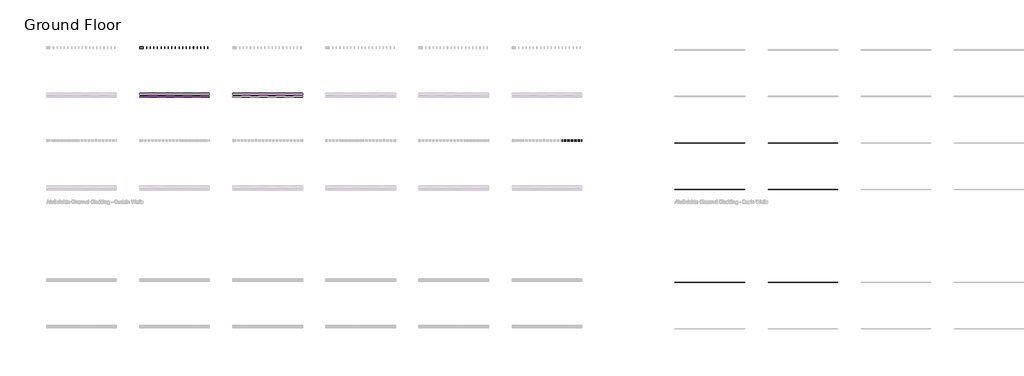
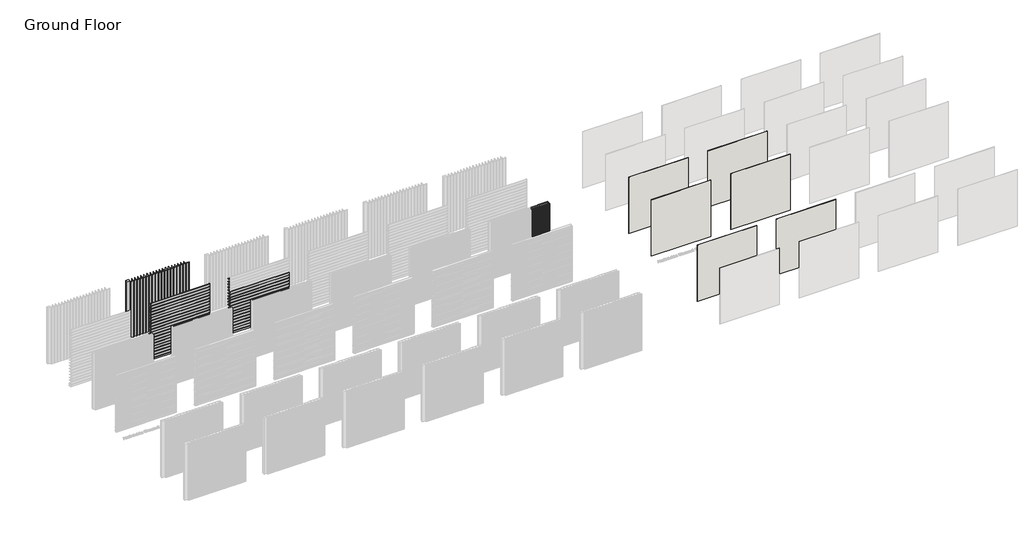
# One storey, part 37 of 350: 69 plates, 64 members, 6 walls.
"""IFC4 building model written with IfcOpenShell, lengths in millimetres."""

from ifc_helpers import new_model, si_unit, origin, origin_with_axes, place, context, project, spatial, polyline, outline, extrude, transform, mapped, element, save
from components import rectangular_mullion_894c3da7, rectangular_mullion_a9feb706, empty_system_panel_empty_02c6fd44, empty_system_panel_empty_27b459cb, empty_system_panel_empty_8dc9dcb4, empty_system_panel_empty_b4bf5bb1, empty_system_panel_empty_81d7e91e

model = new_model("IFC4")

# Units and contexts
model_context = context("Model", 3, world=origin())
ifc_project = project(units=[si_unit("LENGTHUNIT", "METRE", prefix="MILLI")], contexts=[model_context])

# Site, building, storey
site = spatial("IfcSite", under=ifc_project)
building = spatial("IfcBuilding", under=site)
storey = spatial("IfcBuildingStorey", under=building, Name="Ground Floor", Elevation=0.0)

# Members
placement = place(None, origin())
rectangular_mullion_shape = rectangular_mullion_894c3da7(model_context)
element("IfcMember", 1, ObjectType="Rectangular Mullion : Cladding_Aluminium_Modinex_AluSelekta_Channel_75_WhiteOak", at=placement, inside=storey, context=model_context, shape_type="MappedRepresentation", body=[
    mapped(rectangular_mullion_shape, transform((51016.4361642, 14968.2978302, 0.0), x_axis=(1.0, 0.0, 0.0), y_axis=(0.0, -1.0, 0.0), z_axis=(0.0, 0.0, -1.0))),
])
element("IfcMember", 2, ObjectType="Rectangular Mullion : Cladding_Aluminium_Modinex_AluSelekta_Channel_75_WhiteOak", at=placement, inside=storey, context=model_context, shape_type="MappedRepresentation", body=[
    mapped(rectangular_mullion_shape, transform((51091.4361642, 14968.2978302, 0.0), x_axis=(1.0, 0.0, 0.0), y_axis=(0.0, -1.0, 0.0), z_axis=(0.0, 0.0, -1.0))),
])
element("IfcMember", 3, ObjectType="Rectangular Mullion : Cladding_Aluminium_Modinex_AluSelekta_Channel_75_WhiteOak", at=placement, inside=storey, context=model_context, shape_type="MappedRepresentation", body=[
    mapped(rectangular_mullion_shape, transform((51166.4361642, 14968.2978302, 0.0), x_axis=(1.0, 0.0, 0.0), y_axis=(0.0, -1.0, 0.0), z_axis=(0.0, 0.0, -1.0))),
])
element("IfcMember", 4, ObjectType="Rectangular Mullion : Cladding_Aluminium_Modinex_AluSelekta_Channel_75_WhiteOak", at=placement, inside=storey, context=model_context, shape_type="MappedRepresentation", body=[
    mapped(rectangular_mullion_shape, transform((51241.4361642, 14968.2978302, 0.0), x_axis=(1.0, 0.0, 0.0), y_axis=(0.0, -1.0, 0.0), z_axis=(0.0, 0.0, -1.0))),
])
element("IfcMember", 5, ObjectType="Rectangular Mullion : Cladding_Aluminium_Modinex_AluSelekta_Channel_75_WhiteOak", at=placement, inside=storey, context=model_context, shape_type="MappedRepresentation", body=[
    mapped(rectangular_mullion_shape, transform((51316.4361642, 14968.2978302, 0.0), x_axis=(1.0, 0.0, 0.0), y_axis=(0.0, -1.0, 0.0), z_axis=(0.0, 0.0, -1.0))),
])
element("IfcMember", 6, ObjectType="Rectangular Mullion : Cladding_Aluminium_Modinex_AluSelekta_Channel_75_WhiteOak", at=placement, inside=storey, context=model_context, shape_type="MappedRepresentation", body=[
    mapped(rectangular_mullion_shape, transform((51391.4361642, 14968.2978302, 0.0), x_axis=(1.0, 0.0, 0.0), y_axis=(0.0, -1.0, 0.0), z_axis=(0.0, 0.0, -1.0))),
])
element("IfcMember", 7, ObjectType="Rectangular Mullion : Cladding_Aluminium_Modinex_AluSelekta_Channel_75_WhiteOak", at=placement, inside=storey, context=model_context, shape_type="MappedRepresentation", body=[
    mapped(rectangular_mullion_shape, transform((51466.4361642, 14968.2978302, 0.0), x_axis=(1.0, 0.0, 0.0), y_axis=(0.0, -1.0, 0.0), z_axis=(0.0, 0.0, -1.0))),
])
element("IfcMember", 8, ObjectType="Rectangular Mullion : Cladding_Aluminium_Modinex_AluSelekta_Channel_75_WhiteOak", at=placement, inside=storey, context=model_context, shape_type="MappedRepresentation", body=[
    mapped(rectangular_mullion_shape, transform((51541.4361642, 14968.2978302, 0.0), x_axis=(1.0, 0.0, 0.0), y_axis=(0.0, -1.0, 0.0), z_axis=(0.0, 0.0, -1.0))),
])
element("IfcMember", 9, ObjectType="Rectangular Mullion : Cladding_Aluminium_Modinex_AluSelekta_Channel_75_WhiteOak", at=placement, inside=storey, context=model_context, shape_type="MappedRepresentation", body=[
    mapped(rectangular_mullion_shape, transform((51616.4361642, 14968.2978302, 0.0), x_axis=(1.0, 0.0, 0.0), y_axis=(0.0, -1.0, 0.0), z_axis=(0.0, 0.0, -1.0))),
])
element("IfcMember", 10, ObjectType="Rectangular Mullion : Cladding_Aluminium_Modinex_AluSelekta_Channel_75_WhiteOak", at=placement, inside=storey, context=model_context, shape_type="MappedRepresentation", body=[
    mapped(rectangular_mullion_shape, transform((51691.4361642, 14968.2978302, 0.0), x_axis=(1.0, 0.0, 0.0), y_axis=(0.0, -1.0, 0.0), z_axis=(0.0, 0.0, -1.0))),
])
element("IfcMember", 11, ObjectType="Rectangular Mullion : Cladding_Aluminium_Modinex_AluSelekta_Channel_75_WhiteOak", at=placement, inside=storey, context=model_context, shape_type="MappedRepresentation", body=[
    mapped(rectangular_mullion_shape, transform((51766.4361642, 14968.2978302, 0.0), x_axis=(1.0, 0.0, 0.0), y_axis=(0.0, -1.0, 0.0), z_axis=(0.0, 0.0, -1.0))),
])
element("IfcMember", 12, ObjectType="Rectangular Mullion : Cladding_Aluminium_Modinex_AluSelekta_Channel_75_WhiteOak", at=placement, inside=storey, context=model_context, shape_type="MappedRepresentation", body=[
    mapped(rectangular_mullion_shape, transform((51841.4361642, 14968.2978302, 0.0), x_axis=(1.0, 0.0, 0.0), y_axis=(0.0, -1.0, 0.0), z_axis=(0.0, 0.0, -1.0))),
])
rectangular_mullion_2_shape = rectangular_mullion_a9feb706(model_context)
element("IfcMember", 13, ObjectType="Rectangular Mullion : Cladding_Aluminium_Modinex_AluSelekta_Channel_155_Cedar", at=placement, inside=storey, context=model_context, shape_type="MappedRepresentation", body=[
    mapped(rectangular_mullion_2_shape, transform((35916.4361639, 16968.2978302, 155.0), x_axis=(0.0, 0.0, 1.0), y_axis=(0.0, -1.0, 0.0), z_axis=(1.0, 0.0, 0.0))),
])
element("IfcMember", 14, ObjectType="Rectangular Mullion : Cladding_Aluminium_Modinex_AluSelekta_Channel_155_Cedar", at=placement, inside=storey, context=model_context, shape_type="MappedRepresentation", body=[
    mapped(rectangular_mullion_2_shape, transform((35916.4361639, 16968.2978302, 310.0), x_axis=(0.0, 0.0, 1.0), y_axis=(0.0, -1.0, 0.0), z_axis=(1.0, 0.0, 0.0))),
])
element("IfcMember", 15, ObjectType="Rectangular Mullion : Cladding_Aluminium_Modinex_AluSelekta_Channel_155_Cedar", at=placement, inside=storey, context=model_context, shape_type="MappedRepresentation", body=[
    mapped(rectangular_mullion_2_shape, transform((35916.4361639, 16968.2978302, 465.0), x_axis=(0.0, 0.0, 1.0), y_axis=(0.0, -1.0, 0.0), z_axis=(1.0, 0.0, 0.0))),
])
element("IfcMember", 16, ObjectType="Rectangular Mullion : Cladding_Aluminium_Modinex_AluSelekta_Channel_155_Cedar", at=placement, inside=storey, context=model_context, shape_type="MappedRepresentation", body=[
    mapped(rectangular_mullion_2_shape, transform((35916.4361639, 16968.2978302, 620.0), x_axis=(0.0, 0.0, 1.0), y_axis=(0.0, -1.0, 0.0), z_axis=(1.0, 0.0, 0.0))),
])
element("IfcMember", 17, ObjectType="Rectangular Mullion : Cladding_Aluminium_Modinex_AluSelekta_Channel_155_Cedar", at=placement, inside=storey, context=model_context, shape_type="MappedRepresentation", body=[
    mapped(rectangular_mullion_2_shape, transform((35916.4361639, 16968.2978302, 775.0), x_axis=(0.0, 0.0, 1.0), y_axis=(0.0, -1.0, 0.0), z_axis=(1.0, 0.0, 0.0))),
])
element("IfcMember", 18, ObjectType="Rectangular Mullion : Cladding_Aluminium_Modinex_AluSelekta_Channel_155_Cedar", at=placement, inside=storey, context=model_context, shape_type="MappedRepresentation", body=[
    mapped(rectangular_mullion_2_shape, transform((35916.4361639, 16968.2978302, 930.0), x_axis=(0.0, 0.0, 1.0), y_axis=(0.0, -1.0, 0.0), z_axis=(1.0, 0.0, 0.0))),
])
element("IfcMember", 19, ObjectType="Rectangular Mullion : Cladding_Aluminium_Modinex_AluSelekta_Channel_155_Cedar", at=placement, inside=storey, context=model_context, shape_type="MappedRepresentation", body=[
    mapped(rectangular_mullion_2_shape, transform((35916.4361639, 16968.2978302, 1085.0), x_axis=(0.0, 0.0, 1.0), y_axis=(0.0, -1.0, 0.0), z_axis=(1.0, 0.0, 0.0))),
])
element("IfcMember", 20, ObjectType="Rectangular Mullion : Cladding_Aluminium_Modinex_AluSelekta_Channel_155_Cedar", at=placement, inside=storey, context=model_context, shape_type="MappedRepresentation", body=[
    mapped(rectangular_mullion_2_shape, transform((35916.4361639, 16968.2978302, 1240.0), x_axis=(0.0, 0.0, 1.0), y_axis=(0.0, -1.0, 0.0), z_axis=(1.0, 0.0, 0.0))),
])
element("IfcMember", 21, ObjectType="Rectangular Mullion : Cladding_Aluminium_Modinex_AluSelekta_Channel_155_Cedar", at=placement, inside=storey, context=model_context, shape_type="MappedRepresentation", body=[
    mapped(rectangular_mullion_2_shape, transform((35916.4361639, 16968.2978302, 1395.0), x_axis=(0.0, 0.0, 1.0), y_axis=(0.0, -1.0, 0.0), z_axis=(1.0, 0.0, 0.0))),
])
element("IfcMember", 22, ObjectType="Rectangular Mullion : Cladding_Aluminium_Modinex_AluSelekta_Channel_155_Cedar", at=placement, inside=storey, context=model_context, shape_type="MappedRepresentation", body=[
    mapped(rectangular_mullion_2_shape, transform((35916.4361639, 16968.2978302, 1550.0), x_axis=(0.0, 0.0, 1.0), y_axis=(0.0, -1.0, 0.0), z_axis=(1.0, 0.0, 0.0))),
])
element("IfcMember", 23, ObjectType="Rectangular Mullion : Cladding_Aluminium_Modinex_AluSelekta_Channel_155_Cedar", at=placement, inside=storey, context=model_context, shape_type="MappedRepresentation", body=[
    mapped(rectangular_mullion_2_shape, transform((35916.4361639, 16968.2978302, 1705.0), x_axis=(0.0, 0.0, 1.0), y_axis=(0.0, -1.0, 0.0), z_axis=(1.0, 0.0, 0.0))),
])
element("IfcMember", 24, ObjectType="Rectangular Mullion : Cladding_Aluminium_Modinex_AluSelekta_Channel_155_Cedar", at=placement, inside=storey, context=model_context, shape_type="MappedRepresentation", body=[
    mapped(rectangular_mullion_2_shape, transform((35916.4361639, 16968.2978302, 1860.0), x_axis=(0.0, 0.0, 1.0), y_axis=(0.0, -1.0, 0.0), z_axis=(1.0, 0.0, 0.0))),
])
element("IfcMember", 25, ObjectType="Rectangular Mullion : Cladding_Aluminium_Modinex_AluSelekta_Channel_155_Cedar", at=placement, inside=storey, context=model_context, shape_type="MappedRepresentation", body=[
    mapped(rectangular_mullion_2_shape, transform((35916.4361639, 16968.2978302, 2015.0), x_axis=(0.0, 0.0, 1.0), y_axis=(0.0, -1.0, 0.0), z_axis=(1.0, 0.0, 0.0))),
])
element("IfcMember", 26, ObjectType="Rectangular Mullion : Cladding_Aluminium_Modinex_AluSelekta_Channel_155_Cedar", at=placement, inside=storey, context=model_context, shape_type="MappedRepresentation", body=[
    mapped(rectangular_mullion_2_shape, transform((35916.4361639, 16968.2978302, 2170.0), x_axis=(0.0, 0.0, 1.0), y_axis=(0.0, -1.0, 0.0), z_axis=(1.0, 0.0, 0.0))),
])
element("IfcMember", 27, ObjectType="Rectangular Mullion : Cladding_Aluminium_Modinex_AluSelekta_Channel_155_Cedar", at=placement, inside=storey, context=model_context, shape_type="MappedRepresentation", body=[
    mapped(rectangular_mullion_2_shape, transform((35916.4361639, 16968.2978302, 2325.0), x_axis=(0.0, 0.0, 1.0), y_axis=(0.0, -1.0, 0.0), z_axis=(1.0, 0.0, 0.0))),
])
element("IfcMember", 28, ObjectType="Rectangular Mullion : Cladding_Aluminium_Modinex_AluSelekta_Channel_155_Cedar", at=placement, inside=storey, context=model_context, shape_type="MappedRepresentation", body=[
    mapped(rectangular_mullion_2_shape, transform((35916.4361639, 16968.2978302, 2480.0), x_axis=(0.0, 0.0, 1.0), y_axis=(0.0, -1.0, 0.0), z_axis=(1.0, 0.0, 0.0))),
])
element("IfcMember", 29, ObjectType="Rectangular Mullion : Cladding_Aluminium_Modinex_AluSelekta_Channel_155_Cedar", at=placement, inside=storey, context=model_context, shape_type="MappedRepresentation", body=[
    mapped(rectangular_mullion_2_shape, transform((35916.4361639, 16968.2978302, 2635.0), x_axis=(0.0, 0.0, 1.0), y_axis=(0.0, -1.0, 0.0), z_axis=(1.0, 0.0, 0.0))),
])
element("IfcMember", 30, ObjectType="Rectangular Mullion : Cladding_Aluminium_Modinex_AluSelekta_Channel_155_Cedar", at=placement, inside=storey, context=model_context, shape_type="MappedRepresentation", body=[
    mapped(rectangular_mullion_2_shape, transform((35916.4361639, 16968.2978302, 2790.0), x_axis=(0.0, 0.0, 1.0), y_axis=(0.0, -1.0, 0.0), z_axis=(1.0, 0.0, 0.0))),
])
element("IfcMember", 31, ObjectType="Rectangular Mullion : Cladding_Aluminium_Modinex_AluSelekta_Channel_155_Cedar", at=placement, inside=storey, context=model_context, shape_type="MappedRepresentation", body=[
    mapped(rectangular_mullion_2_shape, transform((35916.4361639, 16968.2978302, 2945.0), x_axis=(0.0, 0.0, 1.0), y_axis=(0.0, -1.0, 0.0), z_axis=(1.0, 0.0, 0.0))),
])
element("IfcMember", 32, ObjectType="Rectangular Mullion : Cladding_Aluminium_Modinex_AluSelekta_Channel_155_Cedar", at=placement, inside=storey, context=model_context, shape_type="MappedRepresentation", body=[
    mapped(rectangular_mullion_2_shape, transform((33226.4361642, 18968.2978302, 0.0), x_axis=(1.0, 0.0, 0.0), y_axis=(0.0, -1.0, 0.0), z_axis=(0.0, 0.0, -1.0))),
])
element("IfcMember", 33, ObjectType="Rectangular Mullion : Cladding_Aluminium_Modinex_AluSelekta_Channel_155_Cedar", at=placement, inside=storey, context=model_context, shape_type="MappedRepresentation", body=[
    mapped(rectangular_mullion_2_shape, transform((33381.4361642, 18968.2978302, 0.0), x_axis=(1.0, 0.0, 0.0), y_axis=(0.0, -1.0, 0.0), z_axis=(0.0, 0.0, -1.0))),
])
element("IfcMember", 34, ObjectType="Rectangular Mullion : Cladding_Aluminium_Modinex_AluSelekta_Channel_155_Cedar", at=placement, inside=storey, context=model_context, shape_type="MappedRepresentation", body=[
    mapped(rectangular_mullion_2_shape, transform((33536.4361642, 18968.2978302, 0.0), x_axis=(1.0, 0.0, 0.0), y_axis=(0.0, -1.0, 0.0), z_axis=(0.0, 0.0, -1.0))),
])
element("IfcMember", 35, ObjectType="Rectangular Mullion : Cladding_Aluminium_Modinex_AluSelekta_Channel_155_Cedar", at=placement, inside=storey, context=model_context, shape_type="MappedRepresentation", body=[
    mapped(rectangular_mullion_2_shape, transform((33691.4361642, 18968.2978302, 0.0), x_axis=(1.0, 0.0, 0.0), y_axis=(0.0, -1.0, 0.0), z_axis=(0.0, 0.0, -1.0))),
])
element("IfcMember", 36, ObjectType="Rectangular Mullion : Cladding_Aluminium_Modinex_AluSelekta_Channel_155_Cedar", at=placement, inside=storey, context=model_context, shape_type="MappedRepresentation", body=[
    mapped(rectangular_mullion_2_shape, transform((33846.4361642, 18968.2978302, 0.0), x_axis=(1.0, 0.0, 0.0), y_axis=(0.0, -1.0, 0.0), z_axis=(0.0, 0.0, -1.0))),
])
element("IfcMember", 37, ObjectType="Rectangular Mullion : Cladding_Aluminium_Modinex_AluSelekta_Channel_155_Cedar", at=placement, inside=storey, context=model_context, shape_type="MappedRepresentation", body=[
    mapped(rectangular_mullion_2_shape, transform((34001.4361642, 18968.2978302, 0.0), x_axis=(1.0, 0.0, 0.0), y_axis=(0.0, -1.0, 0.0), z_axis=(0.0, 0.0, -1.0))),
])
element("IfcMember", 38, ObjectType="Rectangular Mullion : Cladding_Aluminium_Modinex_AluSelekta_Channel_155_Cedar", at=placement, inside=storey, context=model_context, shape_type="MappedRepresentation", body=[
    mapped(rectangular_mullion_2_shape, transform((34156.4361642, 18968.2978302, 0.0), x_axis=(1.0, 0.0, 0.0), y_axis=(0.0, -1.0, 0.0), z_axis=(0.0, 0.0, -1.0))),
])
element("IfcMember", 39, ObjectType="Rectangular Mullion : Cladding_Aluminium_Modinex_AluSelekta_Channel_155_Cedar", at=placement, inside=storey, context=model_context, shape_type="MappedRepresentation", body=[
    mapped(rectangular_mullion_2_shape, transform((34311.4361642, 18968.2978302, 0.0), x_axis=(1.0, 0.0, 0.0), y_axis=(0.0, -1.0, 0.0), z_axis=(0.0, 0.0, -1.0))),
])
element("IfcMember", 40, ObjectType="Rectangular Mullion : Cladding_Aluminium_Modinex_AluSelekta_Channel_155_Cedar", at=placement, inside=storey, context=model_context, shape_type="MappedRepresentation", body=[
    mapped(rectangular_mullion_2_shape, transform((34466.4361642, 18968.2978302, 0.0), x_axis=(1.0, 0.0, 0.0), y_axis=(0.0, -1.0, 0.0), z_axis=(0.0, 0.0, -1.0))),
])
element("IfcMember", 41, ObjectType="Rectangular Mullion : Cladding_Aluminium_Modinex_AluSelekta_Channel_155_Cedar", at=placement, inside=storey, context=model_context, shape_type="MappedRepresentation", body=[
    mapped(rectangular_mullion_2_shape, transform((34621.4361642, 18968.2978302, 0.0), x_axis=(1.0, 0.0, 0.0), y_axis=(0.0, -1.0, 0.0), z_axis=(0.0, 0.0, -1.0))),
])
element("IfcMember", 42, ObjectType="Rectangular Mullion : Cladding_Aluminium_Modinex_AluSelekta_Channel_155_Cedar", at=placement, inside=storey, context=model_context, shape_type="MappedRepresentation", body=[
    mapped(rectangular_mullion_2_shape, transform((34776.4361642, 18968.2978302, 0.0), x_axis=(1.0, 0.0, 0.0), y_axis=(0.0, -1.0, 0.0), z_axis=(0.0, 0.0, -1.0))),
])
element("IfcMember", 43, ObjectType="Rectangular Mullion : Cladding_Aluminium_Modinex_AluSelekta_Channel_155_Cedar", at=placement, inside=storey, context=model_context, shape_type="MappedRepresentation", body=[
    mapped(rectangular_mullion_2_shape, transform((34931.4361642, 18968.2978302, 0.0), x_axis=(1.0, 0.0, 0.0), y_axis=(0.0, -1.0, 0.0), z_axis=(0.0, 0.0, -1.0))),
])
element("IfcMember", 44, ObjectType="Rectangular Mullion : Cladding_Aluminium_Modinex_AluSelekta_Channel_155_Cedar", at=placement, inside=storey, context=model_context, shape_type="MappedRepresentation", body=[
    mapped(rectangular_mullion_2_shape, transform((35086.4361642, 18968.2978302, 0.0), x_axis=(1.0, 0.0, 0.0), y_axis=(0.0, -1.0, 0.0), z_axis=(0.0, 0.0, -1.0))),
])
element("IfcMember", 45, ObjectType="Rectangular Mullion : Cladding_Aluminium_Modinex_AluSelekta_Channel_155_Cedar", at=placement, inside=storey, context=model_context, shape_type="MappedRepresentation", body=[
    mapped(rectangular_mullion_2_shape, transform((35241.4361642, 18968.2978302, 0.0), x_axis=(1.0, 0.0, 0.0), y_axis=(0.0, -1.0, 0.0), z_axis=(0.0, 0.0, -1.0))),
])
element("IfcMember", 46, ObjectType="Rectangular Mullion : Cladding_Aluminium_Modinex_AluSelekta_Channel_155_Cedar", at=placement, inside=storey, context=model_context, shape_type="MappedRepresentation", body=[
    mapped(rectangular_mullion_2_shape, transform((35396.4361642, 18968.2978302, 0.0), x_axis=(1.0, 0.0, 0.0), y_axis=(0.0, -1.0, 0.0), z_axis=(0.0, 0.0, -1.0))),
])
element("IfcMember", 47, ObjectType="Rectangular Mullion : Cladding_Aluminium_Modinex_AluSelekta_Channel_155_Cedar", at=placement, inside=storey, context=model_context, shape_type="MappedRepresentation", body=[
    mapped(rectangular_mullion_2_shape, transform((35551.4361642, 18968.2978302, 0.0), x_axis=(1.0, 0.0, 0.0), y_axis=(0.0, -1.0, 0.0), z_axis=(0.0, 0.0, -1.0))),
])
element("IfcMember", 48, ObjectType="Rectangular Mullion : Cladding_Aluminium_Modinex_AluSelekta_Channel_155_Cedar", at=placement, inside=storey, context=model_context, shape_type="MappedRepresentation", body=[
    mapped(rectangular_mullion_2_shape, transform((35706.4361642, 18968.2978302, 0.0), x_axis=(1.0, 0.0, 0.0), y_axis=(0.0, -1.0, 0.0), z_axis=(0.0, 0.0, -1.0))),
])
element("IfcMember", 49, ObjectType="Rectangular Mullion : Cladding_Aluminium_Modinex_AluSelekta_Channel_155_Cedar", at=placement, inside=storey, context=model_context, shape_type="MappedRepresentation", body=[
    mapped(rectangular_mullion_2_shape, transform((35861.4361642, 18968.2978302, 0.0), x_axis=(1.0, 0.0, 0.0), y_axis=(0.0, -1.0, 0.0), z_axis=(0.0, 0.0, -1.0))),
])
element("IfcMember", 50, ObjectType="Rectangular Mullion : Cladding_Aluminium_Modinex_AluSelekta_Channel_155_Cedar", at=placement, inside=storey, context=model_context, shape_type="MappedRepresentation", body=[
    mapped(rectangular_mullion_2_shape, transform((33071.4361642, 18968.2978302, 0.0), x_axis=(1.0, 0.0, 0.0), y_axis=(0.0, -1.0, 0.0), z_axis=(0.0, 0.0, -1.0))),
])
element("IfcMember", 51, ObjectType="Rectangular Mullion : Cladding_Aluminium_Modinex_AluSelekta_Channel_155_EnglishOak", at=placement, inside=storey, context=model_context, shape_type="MappedRepresentation", body=[
    mapped(rectangular_mullion_2_shape, transform((39916.4361639, 16968.2978302, 155.0), x_axis=(0.0, 0.0, 1.0), y_axis=(0.0, -1.0, 0.0), z_axis=(1.0, 0.0, 0.0))),
])
element("IfcMember", 52, ObjectType="Rectangular Mullion : Cladding_Aluminium_Modinex_AluSelekta_Channel_155_EnglishOak", at=placement, inside=storey, context=model_context, shape_type="MappedRepresentation", body=[
    mapped(rectangular_mullion_2_shape, transform((39916.4361639, 16968.2978302, 310.0), x_axis=(0.0, 0.0, 1.0), y_axis=(0.0, -1.0, 0.0), z_axis=(1.0, 0.0, 0.0))),
])
element("IfcMember", 53, ObjectType="Rectangular Mullion : Cladding_Aluminium_Modinex_AluSelekta_Channel_155_EnglishOak", at=placement, inside=storey, context=model_context, shape_type="MappedRepresentation", body=[
    mapped(rectangular_mullion_2_shape, transform((39916.4361639, 16968.2978302, 465.0), x_axis=(0.0, 0.0, 1.0), y_axis=(0.0, -1.0, 0.0), z_axis=(1.0, 0.0, 0.0))),
])
element("IfcMember", 54, ObjectType="Rectangular Mullion : Cladding_Aluminium_Modinex_AluSelekta_Channel_155_EnglishOak", at=placement, inside=storey, context=model_context, shape_type="MappedRepresentation", body=[
    mapped(rectangular_mullion_2_shape, transform((39916.4361639, 16968.2978302, 620.0), x_axis=(0.0, 0.0, 1.0), y_axis=(0.0, -1.0, 0.0), z_axis=(1.0, 0.0, 0.0))),
])
element("IfcMember", 55, ObjectType="Rectangular Mullion : Cladding_Aluminium_Modinex_AluSelekta_Channel_155_EnglishOak", at=placement, inside=storey, context=model_context, shape_type="MappedRepresentation", body=[
    mapped(rectangular_mullion_2_shape, transform((39916.4361639, 16968.2978302, 775.0), x_axis=(0.0, 0.0, 1.0), y_axis=(0.0, -1.0, 0.0), z_axis=(1.0, 0.0, 0.0))),
])
element("IfcMember", 56, ObjectType="Rectangular Mullion : Cladding_Aluminium_Modinex_AluSelekta_Channel_155_EnglishOak", at=placement, inside=storey, context=model_context, shape_type="MappedRepresentation", body=[
    mapped(rectangular_mullion_2_shape, transform((39916.4361639, 16968.2978302, 930.0), x_axis=(0.0, 0.0, 1.0), y_axis=(0.0, -1.0, 0.0), z_axis=(1.0, 0.0, 0.0))),
])
element("IfcMember", 57, ObjectType="Rectangular Mullion : Cladding_Aluminium_Modinex_AluSelekta_Channel_155_EnglishOak", at=placement, inside=storey, context=model_context, shape_type="MappedRepresentation", body=[
    mapped(rectangular_mullion_2_shape, transform((39916.4361639, 16968.2978302, 1085.0), x_axis=(0.0, 0.0, 1.0), y_axis=(0.0, -1.0, 0.0), z_axis=(1.0, 0.0, 0.0))),
])
element("IfcMember", 58, ObjectType="Rectangular Mullion : Cladding_Aluminium_Modinex_AluSelekta_Channel_155_EnglishOak", at=placement, inside=storey, context=model_context, shape_type="MappedRepresentation", body=[
    mapped(rectangular_mullion_2_shape, transform((39916.4361639, 16968.2978302, 1240.0), x_axis=(0.0, 0.0, 1.0), y_axis=(0.0, -1.0, 0.0), z_axis=(1.0, 0.0, 0.0))),
])
element("IfcMember", 59, ObjectType="Rectangular Mullion : Cladding_Aluminium_Modinex_AluSelekta_Channel_155_EnglishOak", at=placement, inside=storey, context=model_context, shape_type="MappedRepresentation", body=[
    mapped(rectangular_mullion_2_shape, transform((39916.4361639, 16968.2978302, 1395.0), x_axis=(0.0, 0.0, 1.0), y_axis=(0.0, -1.0, 0.0), z_axis=(1.0, 0.0, 0.0))),
])
element("IfcMember", 60, ObjectType="Rectangular Mullion : Cladding_Aluminium_Modinex_AluSelekta_Channel_155_EnglishOak", at=placement, inside=storey, context=model_context, shape_type="MappedRepresentation", body=[
    mapped(rectangular_mullion_2_shape, transform((39916.4361639, 16968.2978302, 1550.0), x_axis=(0.0, 0.0, 1.0), y_axis=(0.0, -1.0, 0.0), z_axis=(1.0, 0.0, 0.0))),
])
element("IfcMember", 61, ObjectType="Rectangular Mullion : Cladding_Aluminium_Modinex_AluSelekta_Channel_155_EnglishOak", at=placement, inside=storey, context=model_context, shape_type="MappedRepresentation", body=[
    mapped(rectangular_mullion_2_shape, transform((39916.4361639, 16968.2978302, 1705.0), x_axis=(0.0, 0.0, 1.0), y_axis=(0.0, -1.0, 0.0), z_axis=(1.0, 0.0, 0.0))),
])
element("IfcMember", 62, ObjectType="Rectangular Mullion : Cladding_Aluminium_Modinex_AluSelekta_Channel_155_EnglishOak", at=placement, inside=storey, context=model_context, shape_type="MappedRepresentation", body=[
    mapped(rectangular_mullion_2_shape, transform((39916.4361639, 16968.2978302, 1860.0), x_axis=(0.0, 0.0, 1.0), y_axis=(0.0, -1.0, 0.0), z_axis=(1.0, 0.0, 0.0))),
])
element("IfcMember", 63, ObjectType="Rectangular Mullion : Cladding_Aluminium_Modinex_AluSelekta_Channel_155_EnglishOak", at=placement, inside=storey, context=model_context, shape_type="MappedRepresentation", body=[
    mapped(rectangular_mullion_2_shape, transform((39916.4361639, 16968.2978302, 2015.0), x_axis=(0.0, 0.0, 1.0), y_axis=(0.0, -1.0, 0.0), z_axis=(1.0, 0.0, 0.0))),
])
element("IfcMember", 64, ObjectType="Rectangular Mullion : Cladding_Aluminium_Modinex_AluSelekta_Channel_155_EnglishOak", at=placement, inside=storey, context=model_context, shape_type="MappedRepresentation", body=[
    mapped(rectangular_mullion_2_shape, transform((39916.4361639, 16968.2978302, 2170.0), x_axis=(0.0, 0.0, 1.0), y_axis=(0.0, -1.0, 0.0), z_axis=(1.0, 0.0, 0.0))),
])

# Plates
empty_system_panel_empty_shape = empty_system_panel_empty_02c6fd44(model_context)
element("IfcPlate", 65, ObjectType="Empty System Panel : Empty", at=placement, inside=storey, context=model_context, shape_type="MappedRepresentation", body=[
    mapped(empty_system_panel_empty_shape, transform((34416.4361639, 16968.2978302, 297.2580963), x_axis=(1.0, 0.0, 0.0), y_axis=(0.0, 1.0, 0.0), z_axis=(0.0, 0.0, 1.0))),
])
element("IfcPlate", 66, ObjectType="Empty System Panel : Empty", at=placement, inside=storey, context=model_context, shape_type="MappedRepresentation", body=[
    mapped(empty_system_panel_empty_shape, transform((34416.4361639, 16968.2978302, 452.2580963), x_axis=(1.0, 0.0, 0.0), y_axis=(0.0, 1.0, 0.0), z_axis=(0.0, 0.0, 1.0))),
])
element("IfcPlate", 67, ObjectType="Empty System Panel : Empty", at=placement, inside=storey, context=model_context, shape_type="MappedRepresentation", body=[
    mapped(empty_system_panel_empty_shape, transform((34416.4361639, 16968.2978302, 607.2580963), x_axis=(1.0, 0.0, 0.0), y_axis=(0.0, 1.0, 0.0), z_axis=(0.0, 0.0, 1.0))),
])
element("IfcPlate", 68, ObjectType="Empty System Panel : Empty", at=placement, inside=storey, context=model_context, shape_type="MappedRepresentation", body=[
    mapped(empty_system_panel_empty_shape, transform((34416.4361639, 16968.2978302, 762.2580963), x_axis=(1.0, 0.0, 0.0), y_axis=(0.0, 1.0, 0.0), z_axis=(0.0, 0.0, 1.0))),
])
element("IfcPlate", 69, ObjectType="Empty System Panel : Empty", at=placement, inside=storey, context=model_context, shape_type="MappedRepresentation", body=[
    mapped(empty_system_panel_empty_shape, transform((34416.4361639, 16968.2978302, 917.2580963), x_axis=(1.0, 0.0, 0.0), y_axis=(0.0, 1.0, 0.0), z_axis=(0.0, 0.0, 1.0))),
])
element("IfcPlate", 70, ObjectType="Empty System Panel : Empty", at=placement, inside=storey, context=model_context, shape_type="MappedRepresentation", body=[
    mapped(empty_system_panel_empty_shape, transform((34416.4361639, 16968.2978302, 1072.2580963), x_axis=(1.0, 0.0, 0.0), y_axis=(0.0, 1.0, 0.0), z_axis=(0.0, 0.0, 1.0))),
])
element("IfcPlate", 71, ObjectType="Empty System Panel : Empty", at=placement, inside=storey, context=model_context, shape_type="MappedRepresentation", body=[
    mapped(empty_system_panel_empty_shape, transform((34416.4361639, 16968.2978302, 1227.2580963), x_axis=(1.0, 0.0, 0.0), y_axis=(0.0, 1.0, 0.0), z_axis=(0.0, 0.0, 1.0))),
])
element("IfcPlate", 72, ObjectType="Empty System Panel : Empty", at=placement, inside=storey, context=model_context, shape_type="MappedRepresentation", body=[
    mapped(empty_system_panel_empty_shape, transform((34416.4361639, 16968.2978302, 1382.2580963), x_axis=(1.0, 0.0, 0.0), y_axis=(0.0, 1.0, 0.0), z_axis=(0.0, 0.0, 1.0))),
])
element("IfcPlate", 73, ObjectType="Empty System Panel : Empty", at=placement, inside=storey, context=model_context, shape_type="MappedRepresentation", body=[
    mapped(empty_system_panel_empty_shape, transform((34416.4361639, 16968.2978302, 1537.2580963), x_axis=(1.0, 0.0, 0.0), y_axis=(0.0, 1.0, 0.0), z_axis=(0.0, 0.0, 1.0))),
])
element("IfcPlate", 74, ObjectType="Empty System Panel : Empty", at=placement, inside=storey, context=model_context, shape_type="MappedRepresentation", body=[
    mapped(empty_system_panel_empty_shape, transform((34416.4361639, 16968.2978302, 1692.2580963), x_axis=(1.0, 0.0, 0.0), y_axis=(0.0, 1.0, 0.0), z_axis=(0.0, 0.0, 1.0))),
])
element("IfcPlate", 75, ObjectType="Empty System Panel : Empty", at=placement, inside=storey, context=model_context, shape_type="MappedRepresentation", body=[
    mapped(empty_system_panel_empty_shape, transform((34416.4361639, 16968.2978302, 1847.2580963), x_axis=(1.0, 0.0, 0.0), y_axis=(0.0, 1.0, 0.0), z_axis=(0.0, 0.0, 1.0))),
])
element("IfcPlate", 76, ObjectType="Empty System Panel : Empty", at=placement, inside=storey, context=model_context, shape_type="MappedRepresentation", body=[
    mapped(empty_system_panel_empty_shape, transform((34416.4361639, 16968.2978302, 2002.2580963), x_axis=(1.0, 0.0, 0.0), y_axis=(0.0, 1.0, 0.0), z_axis=(0.0, 0.0, 1.0))),
])
element("IfcPlate", 77, ObjectType="Empty System Panel : Empty", at=placement, inside=storey, context=model_context, shape_type="MappedRepresentation", body=[
    mapped(empty_system_panel_empty_shape, transform((34416.4361639, 16968.2978302, 2157.2580963), x_axis=(1.0, 0.0, 0.0), y_axis=(0.0, 1.0, 0.0), z_axis=(0.0, 0.0, 1.0))),
])
element("IfcPlate", 78, ObjectType="Empty System Panel : Empty", at=placement, inside=storey, context=model_context, shape_type="MappedRepresentation", body=[
    mapped(empty_system_panel_empty_shape, transform((34416.4361639, 16968.2978302, 2312.2580963), x_axis=(1.0, 0.0, 0.0), y_axis=(0.0, 1.0, 0.0), z_axis=(0.0, 0.0, 1.0))),
])
element("IfcPlate", 79, ObjectType="Empty System Panel : Empty", at=placement, inside=storey, context=model_context, shape_type="MappedRepresentation", body=[
    mapped(empty_system_panel_empty_shape, transform((34416.4361639, 16968.2978302, 2467.2580963), x_axis=(1.0, 0.0, 0.0), y_axis=(0.0, 1.0, 0.0), z_axis=(0.0, 0.0, 1.0))),
])
element("IfcPlate", 80, ObjectType="Empty System Panel : Empty", at=placement, inside=storey, context=model_context, shape_type="MappedRepresentation", body=[
    mapped(empty_system_panel_empty_shape, transform((34416.4361639, 16968.2978302, 2622.2580963), x_axis=(1.0, 0.0, 0.0), y_axis=(0.0, 1.0, 0.0), z_axis=(0.0, 0.0, 1.0))),
])
element("IfcPlate", 81, ObjectType="Empty System Panel : Empty", at=placement, inside=storey, context=model_context, shape_type="MappedRepresentation", body=[
    mapped(empty_system_panel_empty_shape, transform((34416.4361639, 16968.2978302, 2777.2580963), x_axis=(1.0, 0.0, 0.0), y_axis=(0.0, 1.0, 0.0), z_axis=(0.0, 0.0, 1.0))),
])
element("IfcPlate", 82, ObjectType="Empty System Panel : Empty", at=placement, inside=storey, context=model_context, shape_type="MappedRepresentation", body=[
    mapped(empty_system_panel_empty_shape, transform((34416.4361639, 16968.2978302, 2932.2580963), x_axis=(1.0, 0.0, 0.0), y_axis=(0.0, 1.0, 0.0), z_axis=(0.0, 0.0, 1.0))),
])
element("IfcPlate", 83, ObjectType="Empty System Panel : Empty", at=placement, inside=storey, context=model_context, shape_type="MappedRepresentation", body=[
    mapped(empty_system_panel_empty_shape, transform((38416.4361639, 16968.2978302, 297.2580963), x_axis=(1.0, 0.0, 0.0), y_axis=(0.0, 1.0, 0.0), z_axis=(0.0, 0.0, 1.0))),
])
element("IfcPlate", 84, ObjectType="Empty System Panel : Empty", at=placement, inside=storey, context=model_context, shape_type="MappedRepresentation", body=[
    mapped(empty_system_panel_empty_shape, transform((38416.4361639, 16968.2978302, 452.2580963), x_axis=(1.0, 0.0, 0.0), y_axis=(0.0, 1.0, 0.0), z_axis=(0.0, 0.0, 1.0))),
])
element("IfcPlate", 85, ObjectType="Empty System Panel : Empty", at=placement, inside=storey, context=model_context, shape_type="MappedRepresentation", body=[
    mapped(empty_system_panel_empty_shape, transform((38416.4361639, 16968.2978302, 607.2580963), x_axis=(1.0, 0.0, 0.0), y_axis=(0.0, 1.0, 0.0), z_axis=(0.0, 0.0, 1.0))),
])
element("IfcPlate", 86, ObjectType="Empty System Panel : Empty", at=placement, inside=storey, context=model_context, shape_type="MappedRepresentation", body=[
    mapped(empty_system_panel_empty_shape, transform((38416.4361639, 16968.2978302, 762.2580963), x_axis=(1.0, 0.0, 0.0), y_axis=(0.0, 1.0, 0.0), z_axis=(0.0, 0.0, 1.0))),
])
element("IfcPlate", 87, ObjectType="Empty System Panel : Empty", at=placement, inside=storey, context=model_context, shape_type="MappedRepresentation", body=[
    mapped(empty_system_panel_empty_shape, transform((38416.4361639, 16968.2978302, 917.2580963), x_axis=(1.0, 0.0, 0.0), y_axis=(0.0, 1.0, 0.0), z_axis=(0.0, 0.0, 1.0))),
])
element("IfcPlate", 88, ObjectType="Empty System Panel : Empty", at=placement, inside=storey, context=model_context, shape_type="MappedRepresentation", body=[
    mapped(empty_system_panel_empty_shape, transform((38416.4361639, 16968.2978302, 1072.2580963), x_axis=(1.0, 0.0, 0.0), y_axis=(0.0, 1.0, 0.0), z_axis=(0.0, 0.0, 1.0))),
])
element("IfcPlate", 89, ObjectType="Empty System Panel : Empty", at=placement, inside=storey, context=model_context, shape_type="MappedRepresentation", body=[
    mapped(empty_system_panel_empty_shape, transform((38416.4361639, 16968.2978302, 1227.2580963), x_axis=(1.0, 0.0, 0.0), y_axis=(0.0, 1.0, 0.0), z_axis=(0.0, 0.0, 1.0))),
])
element("IfcPlate", 90, ObjectType="Empty System Panel : Empty", at=placement, inside=storey, context=model_context, shape_type="MappedRepresentation", body=[
    mapped(empty_system_panel_empty_shape, transform((38416.4361639, 16968.2978302, 1382.2580963), x_axis=(1.0, 0.0, 0.0), y_axis=(0.0, 1.0, 0.0), z_axis=(0.0, 0.0, 1.0))),
])
element("IfcPlate", 91, ObjectType="Empty System Panel : Empty", at=placement, inside=storey, context=model_context, shape_type="MappedRepresentation", body=[
    mapped(empty_system_panel_empty_shape, transform((38416.4361639, 16968.2978302, 1537.2580963), x_axis=(1.0, 0.0, 0.0), y_axis=(0.0, 1.0, 0.0), z_axis=(0.0, 0.0, 1.0))),
])
element("IfcPlate", 92, ObjectType="Empty System Panel : Empty", at=placement, inside=storey, context=model_context, shape_type="MappedRepresentation", body=[
    mapped(empty_system_panel_empty_shape, transform((38416.4361639, 16968.2978302, 1692.2580963), x_axis=(1.0, 0.0, 0.0), y_axis=(0.0, 1.0, 0.0), z_axis=(0.0, 0.0, 1.0))),
])
element("IfcPlate", 93, ObjectType="Empty System Panel : Empty", at=placement, inside=storey, context=model_context, shape_type="MappedRepresentation", body=[
    mapped(empty_system_panel_empty_shape, transform((38416.4361639, 16968.2978302, 1847.2580963), x_axis=(1.0, 0.0, 0.0), y_axis=(0.0, 1.0, 0.0), z_axis=(0.0, 0.0, 1.0))),
])
element("IfcPlate", 94, ObjectType="Empty System Panel : Empty", at=placement, inside=storey, context=model_context, shape_type="MappedRepresentation", body=[
    mapped(empty_system_panel_empty_shape, transform((38416.4361639, 16968.2978302, 2002.2580963), x_axis=(1.0, 0.0, 0.0), y_axis=(0.0, 1.0, 0.0), z_axis=(0.0, 0.0, 1.0))),
])
element("IfcPlate", 95, ObjectType="Empty System Panel : Empty", at=placement, inside=storey, context=model_context, shape_type="MappedRepresentation", body=[
    mapped(empty_system_panel_empty_shape, transform((38416.4361639, 16968.2978302, 2157.2580963), x_axis=(1.0, 0.0, 0.0), y_axis=(0.0, 1.0, 0.0), z_axis=(0.0, 0.0, 1.0))),
])
element("IfcPlate", 96, ObjectType="Empty System Panel : Empty", at=placement, inside=storey, context=model_context, shape_type="MappedRepresentation", body=[
    mapped(empty_system_panel_empty_shape, transform((38416.4361639, 16968.2978302, 2312.2580963), x_axis=(1.0, 0.0, 0.0), y_axis=(0.0, 1.0, 0.0), z_axis=(0.0, 0.0, 1.0))),
])
element("IfcPlate", 97, ObjectType="Empty System Panel : Empty", at=placement, inside=storey, context=model_context, shape_type="MappedRepresentation", body=[
    mapped(empty_system_panel_empty_shape, transform((38416.4361639, 16968.2978302, 2467.2580963), x_axis=(1.0, 0.0, 0.0), y_axis=(0.0, 1.0, 0.0), z_axis=(0.0, 0.0, 1.0))),
])
element("IfcPlate", 98, ObjectType="Empty System Panel : Empty", at=placement, inside=storey, context=model_context, shape_type="MappedRepresentation", body=[
    mapped(empty_system_panel_empty_shape, transform((38416.4361639, 16968.2978302, 2622.2580963), x_axis=(1.0, 0.0, 0.0), y_axis=(0.0, 1.0, 0.0), z_axis=(0.0, 0.0, 1.0))),
])
element("IfcPlate", 99, ObjectType="Empty System Panel : Empty", at=placement, inside=storey, context=model_context, shape_type="MappedRepresentation", body=[
    mapped(empty_system_panel_empty_shape, transform((38416.4361639, 16968.2978302, 2777.2580963), x_axis=(1.0, 0.0, 0.0), y_axis=(0.0, 1.0, 0.0), z_axis=(0.0, 0.0, 1.0))),
])
element("IfcPlate", 100, ObjectType="Empty System Panel : Empty", at=placement, inside=storey, context=model_context, shape_type="MappedRepresentation", body=[
    mapped(empty_system_panel_empty_shape, transform((38416.4361639, 16968.2978302, 2932.2580963), x_axis=(1.0, 0.0, 0.0), y_axis=(0.0, 1.0, 0.0), z_axis=(0.0, 0.0, 1.0))),
])
empty_system_panel_empty_2_shape = empty_system_panel_empty_27b459cb(model_context)
element("IfcPlate", 101, ObjectType="Empty System Panel : Empty", at=placement, inside=storey, context=model_context, shape_type="MappedRepresentation", body=[
    mapped(empty_system_panel_empty_2_shape, transform((51079.9529326, 14968.2978302, 0.0), x_axis=(1.0, 0.0, 0.0), y_axis=(0.0, 1.0, 0.0), z_axis=(0.0, 0.0, 1.0))),
])
element("IfcPlate", 102, ObjectType="Empty System Panel : Empty", at=placement, inside=storey, context=model_context, shape_type="MappedRepresentation", body=[
    mapped(empty_system_panel_empty_2_shape, transform((51154.9529326, 14968.2978302, 0.0), x_axis=(1.0, 0.0, 0.0), y_axis=(0.0, 1.0, 0.0), z_axis=(0.0, 0.0, 1.0))),
])
element("IfcPlate", 103, ObjectType="Empty System Panel : Empty", at=placement, inside=storey, context=model_context, shape_type="MappedRepresentation", body=[
    mapped(empty_system_panel_empty_2_shape, transform((51229.9529326, 14968.2978302, 0.0), x_axis=(1.0, 0.0, 0.0), y_axis=(0.0, 1.0, 0.0), z_axis=(0.0, 0.0, 1.0))),
])
element("IfcPlate", 104, ObjectType="Empty System Panel : Empty", at=placement, inside=storey, context=model_context, shape_type="MappedRepresentation", body=[
    mapped(empty_system_panel_empty_2_shape, transform((51304.9529326, 14968.2978302, 0.0), x_axis=(1.0, 0.0, 0.0), y_axis=(0.0, 1.0, 0.0), z_axis=(0.0, 0.0, 1.0))),
])
element("IfcPlate", 105, ObjectType="Empty System Panel : Empty", at=placement, inside=storey, context=model_context, shape_type="MappedRepresentation", body=[
    mapped(empty_system_panel_empty_2_shape, transform((51379.9529326, 14968.2978302, 0.0), x_axis=(1.0, 0.0, 0.0), y_axis=(0.0, 1.0, 0.0), z_axis=(0.0, 0.0, 1.0))),
])
element("IfcPlate", 106, ObjectType="Empty System Panel : Empty", at=placement, inside=storey, context=model_context, shape_type="MappedRepresentation", body=[
    mapped(empty_system_panel_empty_2_shape, transform((51454.9529326, 14968.2978302, 0.0), x_axis=(1.0, 0.0, 0.0), y_axis=(0.0, 1.0, 0.0), z_axis=(0.0, 0.0, 1.0))),
])
element("IfcPlate", 107, ObjectType="Empty System Panel : Empty", at=placement, inside=storey, context=model_context, shape_type="MappedRepresentation", body=[
    mapped(empty_system_panel_empty_2_shape, transform((51529.9529326, 14968.2978302, 0.0), x_axis=(1.0, 0.0, 0.0), y_axis=(0.0, 1.0, 0.0), z_axis=(0.0, 0.0, 1.0))),
])
element("IfcPlate", 108, ObjectType="Empty System Panel : Empty", at=placement, inside=storey, context=model_context, shape_type="MappedRepresentation", body=[
    mapped(empty_system_panel_empty_2_shape, transform((51604.9529326, 14968.2978302, 0.0), x_axis=(1.0, 0.0, 0.0), y_axis=(0.0, 1.0, 0.0), z_axis=(0.0, 0.0, 1.0))),
])
element("IfcPlate", 109, ObjectType="Empty System Panel : Empty", at=placement, inside=storey, context=model_context, shape_type="MappedRepresentation", body=[
    mapped(empty_system_panel_empty_2_shape, transform((51679.9529326, 14968.2978302, 0.0), x_axis=(1.0, 0.0, 0.0), y_axis=(0.0, 1.0, 0.0), z_axis=(0.0, 0.0, 1.0))),
])
element("IfcPlate", 110, ObjectType="Empty System Panel : Empty", at=placement, inside=storey, context=model_context, shape_type="MappedRepresentation", body=[
    mapped(empty_system_panel_empty_2_shape, transform((51754.9529326, 14968.2978302, 0.0), x_axis=(1.0, 0.0, 0.0), y_axis=(0.0, 1.0, 0.0), z_axis=(0.0, 0.0, 1.0))),
])
element("IfcPlate", 111, ObjectType="Empty System Panel : Empty", at=placement, inside=storey, context=model_context, shape_type="MappedRepresentation", body=[
    mapped(empty_system_panel_empty_2_shape, transform((51829.9529326, 14968.2978302, 0.0), x_axis=(1.0, 0.0, 0.0), y_axis=(0.0, 1.0, 0.0), z_axis=(0.0, 0.0, 1.0))),
])
element("IfcPlate", 112, ObjectType="Empty System Panel : Empty", at=placement, inside=storey, context=model_context, shape_type="MappedRepresentation", body=[
    mapped(empty_system_panel_empty_2_shape, transform((33369.9529326, 18968.2978302, 0.0), x_axis=(1.0, 0.0, 0.0), y_axis=(0.0, 1.0, 0.0), z_axis=(0.0, 0.0, 1.0))),
])
element("IfcPlate", 113, ObjectType="Empty System Panel : Empty", at=placement, inside=storey, context=model_context, shape_type="MappedRepresentation", body=[
    mapped(empty_system_panel_empty_2_shape, transform((33524.9529326, 18968.2978302, 0.0), x_axis=(1.0, 0.0, 0.0), y_axis=(0.0, 1.0, 0.0), z_axis=(0.0, 0.0, 1.0))),
])
element("IfcPlate", 114, ObjectType="Empty System Panel : Empty", at=placement, inside=storey, context=model_context, shape_type="MappedRepresentation", body=[
    mapped(empty_system_panel_empty_2_shape, transform((33679.9529326, 18968.2978302, 0.0), x_axis=(1.0, 0.0, 0.0), y_axis=(0.0, 1.0, 0.0), z_axis=(0.0, 0.0, 1.0))),
])
element("IfcPlate", 115, ObjectType="Empty System Panel : Empty", at=placement, inside=storey, context=model_context, shape_type="MappedRepresentation", body=[
    mapped(empty_system_panel_empty_2_shape, transform((33834.9529326, 18968.2978302, 0.0), x_axis=(1.0, 0.0, 0.0), y_axis=(0.0, 1.0, 0.0), z_axis=(0.0, 0.0, 1.0))),
])
element("IfcPlate", 116, ObjectType="Empty System Panel : Empty", at=placement, inside=storey, context=model_context, shape_type="MappedRepresentation", body=[
    mapped(empty_system_panel_empty_2_shape, transform((33989.9529326, 18968.2978302, 0.0), x_axis=(1.0, 0.0, 0.0), y_axis=(0.0, 1.0, 0.0), z_axis=(0.0, 0.0, 1.0))),
])
element("IfcPlate", 117, ObjectType="Empty System Panel : Empty", at=placement, inside=storey, context=model_context, shape_type="MappedRepresentation", body=[
    mapped(empty_system_panel_empty_2_shape, transform((34144.9529326, 18968.2978302, 0.0), x_axis=(1.0, 0.0, 0.0), y_axis=(0.0, 1.0, 0.0), z_axis=(0.0, 0.0, 1.0))),
])
element("IfcPlate", 118, ObjectType="Empty System Panel : Empty", at=placement, inside=storey, context=model_context, shape_type="MappedRepresentation", body=[
    mapped(empty_system_panel_empty_2_shape, transform((34299.9529326, 18968.2978302, 0.0), x_axis=(1.0, 0.0, 0.0), y_axis=(0.0, 1.0, 0.0), z_axis=(0.0, 0.0, 1.0))),
])
element("IfcPlate", 119, ObjectType="Empty System Panel : Empty", at=placement, inside=storey, context=model_context, shape_type="MappedRepresentation", body=[
    mapped(empty_system_panel_empty_2_shape, transform((34454.9529326, 18968.2978302, 0.0), x_axis=(1.0, 0.0, 0.0), y_axis=(0.0, 1.0, 0.0), z_axis=(0.0, 0.0, 1.0))),
])
element("IfcPlate", 120, ObjectType="Empty System Panel : Empty", at=placement, inside=storey, context=model_context, shape_type="MappedRepresentation", body=[
    mapped(empty_system_panel_empty_2_shape, transform((34609.9529326, 18968.2978302, 0.0), x_axis=(1.0, 0.0, 0.0), y_axis=(0.0, 1.0, 0.0), z_axis=(0.0, 0.0, 1.0))),
])
element("IfcPlate", 121, ObjectType="Empty System Panel : Empty", at=placement, inside=storey, context=model_context, shape_type="MappedRepresentation", body=[
    mapped(empty_system_panel_empty_2_shape, transform((34764.9529326, 18968.2978302, 0.0), x_axis=(1.0, 0.0, 0.0), y_axis=(0.0, 1.0, 0.0), z_axis=(0.0, 0.0, 1.0))),
])
element("IfcPlate", 122, ObjectType="Empty System Panel : Empty", at=placement, inside=storey, context=model_context, shape_type="MappedRepresentation", body=[
    mapped(empty_system_panel_empty_2_shape, transform((34919.9529326, 18968.2978302, 0.0), x_axis=(1.0, 0.0, 0.0), y_axis=(0.0, 1.0, 0.0), z_axis=(0.0, 0.0, 1.0))),
])
element("IfcPlate", 123, ObjectType="Empty System Panel : Empty", at=placement, inside=storey, context=model_context, shape_type="MappedRepresentation", body=[
    mapped(empty_system_panel_empty_2_shape, transform((35074.9529326, 18968.2978302, 0.0), x_axis=(1.0, 0.0, 0.0), y_axis=(0.0, 1.0, 0.0), z_axis=(0.0, 0.0, 1.0))),
])
element("IfcPlate", 124, ObjectType="Empty System Panel : Empty", at=placement, inside=storey, context=model_context, shape_type="MappedRepresentation", body=[
    mapped(empty_system_panel_empty_2_shape, transform((35229.9529326, 18968.2978302, 0.0), x_axis=(1.0, 0.0, 0.0), y_axis=(0.0, 1.0, 0.0), z_axis=(0.0, 0.0, 1.0))),
])
element("IfcPlate", 125, ObjectType="Empty System Panel : Empty", at=placement, inside=storey, context=model_context, shape_type="MappedRepresentation", body=[
    mapped(empty_system_panel_empty_2_shape, transform((35384.9529326, 18968.2978302, 0.0), x_axis=(1.0, 0.0, 0.0), y_axis=(0.0, 1.0, 0.0), z_axis=(0.0, 0.0, 1.0))),
])
element("IfcPlate", 126, ObjectType="Empty System Panel : Empty", at=placement, inside=storey, context=model_context, shape_type="MappedRepresentation", body=[
    mapped(empty_system_panel_empty_2_shape, transform((35539.9529326, 18968.2978302, 0.0), x_axis=(1.0, 0.0, 0.0), y_axis=(0.0, 1.0, 0.0), z_axis=(0.0, 0.0, 1.0))),
])
element("IfcPlate", 127, ObjectType="Empty System Panel : Empty", at=placement, inside=storey, context=model_context, shape_type="MappedRepresentation", body=[
    mapped(empty_system_panel_empty_2_shape, transform((35694.9529326, 18968.2978302, 0.0), x_axis=(1.0, 0.0, 0.0), y_axis=(0.0, 1.0, 0.0), z_axis=(0.0, 0.0, 1.0))),
])
element("IfcPlate", 128, ObjectType="Empty System Panel : Empty", at=placement, inside=storey, context=model_context, shape_type="MappedRepresentation", body=[
    mapped(empty_system_panel_empty_2_shape, transform((35849.9529326, 18968.2978302, 0.0), x_axis=(1.0, 0.0, 0.0), y_axis=(0.0, 1.0, 0.0), z_axis=(0.0, 0.0, 1.0))),
])
element("IfcPlate", 129, ObjectType="Empty System Panel : Empty", at=placement, inside=storey, context=model_context, shape_type="MappedRepresentation", body=[
    mapped(empty_system_panel_empty_2_shape, transform((33214.9529326, 18968.2978302, 0.0), x_axis=(1.0, 0.0, 0.0), y_axis=(0.0, 1.0, 0.0), z_axis=(0.0, 0.0, 1.0))),
])
empty_system_panel_empty_3_shape = empty_system_panel_empty_8dc9dcb4(model_context)
element("IfcPlate", 130, ObjectType="Empty System Panel : Empty", at=placement, inside=storey, context=model_context, shape_type="MappedRepresentation", body=[
    mapped(empty_system_panel_empty_3_shape, transform((51910.0652122, 14968.2978302, 0.0), x_axis=(1.0, 0.0, 0.0), y_axis=(0.0, 1.0, 0.0), z_axis=(0.0, 0.0, 1.0))),
])
empty_system_panel_empty_4_shape = empty_system_panel_empty_b4bf5bb1(model_context)
element("IfcPlate", 131, ObjectType="Empty System Panel : Empty", at=placement, inside=storey, context=model_context, shape_type="MappedRepresentation", body=[
    mapped(empty_system_panel_empty_4_shape, transform((34416.4361639, 16968.2978302, 0.0), x_axis=(1.0, 0.0, 0.0), y_axis=(0.0, 1.0, 0.0), z_axis=(0.0, 0.0, 1.0))),
])
element("IfcPlate", 132, ObjectType="Empty System Panel : Empty", at=placement, inside=storey, context=model_context, shape_type="MappedRepresentation", body=[
    mapped(empty_system_panel_empty_4_shape, transform((38416.4361639, 16968.2978302, 0.0), x_axis=(1.0, 0.0, 0.0), y_axis=(0.0, 1.0, 0.0), z_axis=(0.0, 0.0, 1.0))),
])
empty_system_panel_empty_5_shape = empty_system_panel_empty_81d7e91e(model_context)
element("IfcPlate", 133, ObjectType="Empty System Panel : Empty", at=placement, inside=storey, context=model_context, shape_type="MappedRepresentation", body=[
    mapped(empty_system_panel_empty_5_shape, transform((32988.8238843, 18968.2978302, 0.0), x_axis=(1.0, 0.0, 0.0), y_axis=(0.0, 1.0, 0.0), z_axis=(0.0, 0.0, 1.0))),
])

# Walls
element("IfcWall", 134, ObjectType="Cladding_Aluminium_Modinex_AluSelekta_Castelation_ScreenClad_160Ultra_AfricanEbony", at=placement, inside=storey, context=model_context, shape_type="SweptSolid", body=[
    extrude(outline(polyline([(58916.4361639, 8963.2978302), (55916.4361639, 8963.2978302), (55916.4361639, 8973.2978302), (58916.4361639, 8973.2978302), (58916.4361639, 8963.2978302)])), origin_with_axes(), (0.0, 0.0, 1.0), 3000.0),
])
element("IfcWall", 135, ObjectType="Cladding_Aluminium_Modinex_AluSelekta_Castelation_ScreenClad_160Ultra_Cedar", at=placement, inside=storey, context=model_context, shape_type="SweptSolid", body=[
    extrude(outline(polyline([(62916.4361639, 8963.2978302), (59916.4361639, 8963.2978302), (59916.4361639, 8973.2978302), (62916.4361639, 8973.2978302), (62916.4361639, 8963.2978302)])), origin_with_axes(), (0.0, 0.0, 1.0), 3000.0),
])
element("IfcWall", 136, ObjectType="Cladding_Aluminium_Modinex_AluSelekta_Channel_75_Horizontal_AfricanEbony", at=placement, inside=storey, context=model_context, shape_type="SweptSolid", body=[
    extrude(outline(polyline([(58916.4361639, 12963.2978302), (55916.4361639, 12963.2978302), (55916.4361639, 12973.2978302), (58916.4361639, 12973.2978302), (58916.4361639, 12963.2978302)])), origin_with_axes(), (0.0, 0.0, 1.0), 3000.0),
])
element("IfcWall", 137, ObjectType="Cladding_Aluminium_Modinex_AluSelekta_Channel_75_Horizontal_Cedar", at=placement, inside=storey, context=model_context, shape_type="SweptSolid", body=[
    extrude(outline(polyline([(62916.4361639, 12963.2978302), (59916.4361639, 12963.2978302), (59916.4361639, 12973.2978302), (62916.4361639, 12973.2978302), (62916.4361639, 12963.2978302)])), origin_with_axes(), (0.0, 0.0, 1.0), 3000.0),
])
element("IfcWall", 138, ObjectType="Cladding_Aluminium_Modinex_AluSelekta_Channel_75_Vertical_AfricanEbony", at=placement, inside=storey, context=model_context, shape_type="SweptSolid", body=[
    extrude(outline(polyline([(58916.4361639, 14963.2978302), (55916.4361639, 14963.2978302), (55916.4361639, 14973.2978302), (58916.4361639, 14973.2978302), (58916.4361639, 14963.2978302)])), origin_with_axes(), (0.0, 0.0, 1.0), 3000.0),
])
element("IfcWall", 139, ObjectType="Cladding_Aluminium_Modinex_AluSelekta_Channel_75_Vertical_Cedar", at=placement, inside=storey, context=model_context, shape_type="SweptSolid", body=[
    extrude(outline(polyline([(62916.4361639, 14963.2978302), (59916.4361639, 14963.2978302), (59916.4361639, 14973.2978302), (62916.4361639, 14973.2978302), (62916.4361639, 14963.2978302)])), origin_with_axes(), (0.0, 0.0, 1.0), 3000.0),
])

save(model, "model.ifc")
